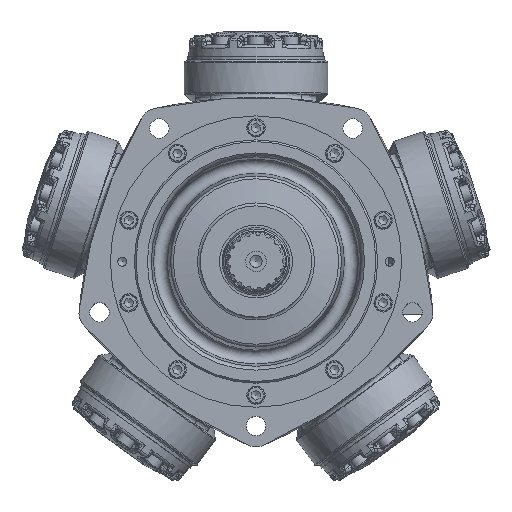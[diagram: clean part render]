
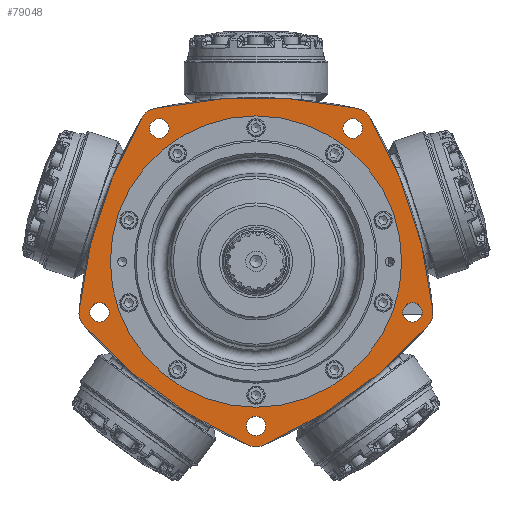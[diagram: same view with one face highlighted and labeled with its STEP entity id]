
A CAD part, top view. The second image highlights one B-rep face of the part: STEP entity #79048.
In plain terms, the highlighted planar face has unit normal (0, 0, 1).
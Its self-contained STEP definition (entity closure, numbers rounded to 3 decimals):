
#2959=FACE_BOUND('',#15388,.T.);
#2960=FACE_BOUND('',#15389,.T.);
#2961=FACE_BOUND('',#15390,.T.);
#2962=FACE_BOUND('',#15391,.T.);
#2963=FACE_BOUND('',#15392,.T.);
#2964=FACE_BOUND('',#15393,.T.);
#8647=PLANE('',#84549);
#10286=FACE_OUTER_BOUND('',#15387,.T.);
#15387=EDGE_LOOP('',(#52309,#52310,#52311,#52312,#52313,#52314,#52315,#52316,
#52317,#52318));
#15388=EDGE_LOOP('',(#52319));
#15389=EDGE_LOOP('',(#52320));
#15390=EDGE_LOOP('',(#52321));
#15391=EDGE_LOOP('',(#52322));
#15392=EDGE_LOOP('',(#52323));
#15393=EDGE_LOOP('',(#52324));
#27792=CIRCLE('',#84482,9.);
#27794=CIRCLE('',#84485,9.);
#27796=CIRCLE('',#84488,9.);
#27798=CIRCLE('',#84491,9.);
#27800=CIRCLE('',#84494,9.);
#27830=CIRCLE('',#84548,134.957);
#27831=CIRCLE('',#84550,19.05);
#27832=CIRCLE('',#84551,444.5);
#27833=CIRCLE('',#84552,19.05);
#27834=CIRCLE('',#84553,444.5);
#27835=CIRCLE('',#84554,19.05);
#27836=CIRCLE('',#84555,444.5);
#27837=CIRCLE('',#84556,19.05);
#27838=CIRCLE('',#84557,444.5);
#27839=CIRCLE('',#84558,19.05);
#27840=CIRCLE('',#84559,444.5);
#31716=VERTEX_POINT('',#121573);
#31718=VERTEX_POINT('',#121579);
#31720=VERTEX_POINT('',#121585);
#31722=VERTEX_POINT('',#121591);
#31724=VERTEX_POINT('',#121597);
#31799=VERTEX_POINT('',#122576);
#31800=VERTEX_POINT('',#122580);
#31801=VERTEX_POINT('',#122581);
#31802=VERTEX_POINT('',#122583);
#31803=VERTEX_POINT('',#122585);
#31804=VERTEX_POINT('',#122587);
#31805=VERTEX_POINT('',#122589);
#31806=VERTEX_POINT('',#122591);
#31807=VERTEX_POINT('',#122593);
#31808=VERTEX_POINT('',#122595);
#31809=VERTEX_POINT('',#122597);
#39172=EDGE_CURVE('',#31716,#31716,#27792,.T.);
#39175=EDGE_CURVE('',#31718,#31718,#27794,.T.);
#39178=EDGE_CURVE('',#31720,#31720,#27796,.T.);
#39181=EDGE_CURVE('',#31722,#31722,#27798,.T.);
#39184=EDGE_CURVE('',#31724,#31724,#27800,.T.);
#39284=EDGE_CURVE('',#31799,#31799,#27830,.T.);
#39285=EDGE_CURVE('',#31800,#31801,#27831,.T.);
#39286=EDGE_CURVE('',#31802,#31800,#27832,.T.);
#39287=EDGE_CURVE('',#31803,#31802,#27833,.T.);
#39288=EDGE_CURVE('',#31804,#31803,#27834,.T.);
#39289=EDGE_CURVE('',#31805,#31804,#27835,.T.);
#39290=EDGE_CURVE('',#31806,#31805,#27836,.T.);
#39291=EDGE_CURVE('',#31807,#31806,#27837,.T.);
#39292=EDGE_CURVE('',#31808,#31807,#27838,.T.);
#39293=EDGE_CURVE('',#31809,#31808,#27839,.T.);
#39294=EDGE_CURVE('',#31801,#31809,#27840,.T.);
#52309=ORIENTED_EDGE('',*,*,#39285,.F.);
#52310=ORIENTED_EDGE('',*,*,#39286,.F.);
#52311=ORIENTED_EDGE('',*,*,#39287,.F.);
#52312=ORIENTED_EDGE('',*,*,#39288,.F.);
#52313=ORIENTED_EDGE('',*,*,#39289,.F.);
#52314=ORIENTED_EDGE('',*,*,#39290,.F.);
#52315=ORIENTED_EDGE('',*,*,#39291,.F.);
#52316=ORIENTED_EDGE('',*,*,#39292,.F.);
#52317=ORIENTED_EDGE('',*,*,#39293,.F.);
#52318=ORIENTED_EDGE('',*,*,#39294,.F.);
#52319=ORIENTED_EDGE('',*,*,#39172,.T.);
#52320=ORIENTED_EDGE('',*,*,#39175,.T.);
#52321=ORIENTED_EDGE('',*,*,#39178,.T.);
#52322=ORIENTED_EDGE('',*,*,#39181,.T.);
#52323=ORIENTED_EDGE('',*,*,#39184,.T.);
#52324=ORIENTED_EDGE('',*,*,#39284,.F.);
#79048=ADVANCED_FACE('',(#10286,#2959,#2960,#2961,#2962,#2963,#2964),#8647,
 .F.);
#84482=AXIS2_PLACEMENT_3D('',#121575,#93068,#93069);
#84485=AXIS2_PLACEMENT_3D('',#121581,#93075,#93076);
#84488=AXIS2_PLACEMENT_3D('',#121587,#93082,#93083);
#84491=AXIS2_PLACEMENT_3D('',#121593,#93089,#93090);
#84494=AXIS2_PLACEMENT_3D('',#121599,#93096,#93097);
#84548=AXIS2_PLACEMENT_3D('',#122578,#93223,#93224);
#84549=AXIS2_PLACEMENT_3D('',#122579,#93225,#93226);
#84550=AXIS2_PLACEMENT_3D('',#122582,#93227,#93228);
#84551=AXIS2_PLACEMENT_3D('',#122584,#93229,#93230);
#84552=AXIS2_PLACEMENT_3D('',#122586,#93231,#93232);
#84553=AXIS2_PLACEMENT_3D('',#122588,#93233,#93234);
#84554=AXIS2_PLACEMENT_3D('',#122590,#93235,#93236);
#84555=AXIS2_PLACEMENT_3D('',#122592,#93237,#93238);
#84556=AXIS2_PLACEMENT_3D('',#122594,#93239,#93240);
#84557=AXIS2_PLACEMENT_3D('',#122596,#93241,#93242);
#84558=AXIS2_PLACEMENT_3D('',#122598,#93243,#93244);
#84559=AXIS2_PLACEMENT_3D('',#122599,#93245,#93246);
#93068=DIRECTION('center_axis',(0.,0.,-1.));
#93069=DIRECTION('ref_axis',(-1.,0.,0.));
#93075=DIRECTION('center_axis',(0.,0.,-1.));
#93076=DIRECTION('ref_axis',(-1.,0.,0.));
#93082=DIRECTION('center_axis',(0.,0.,-1.));
#93083=DIRECTION('ref_axis',(-1.,0.,0.));
#93089=DIRECTION('center_axis',(0.,0.,-1.));
#93090=DIRECTION('ref_axis',(-1.,0.,0.));
#93096=DIRECTION('center_axis',(0.,0.,-1.));
#93097=DIRECTION('ref_axis',(-1.,0.,0.));
#93223=DIRECTION('center_axis',(0.,0.,1.));
#93224=DIRECTION('ref_axis',(-1.,0.,0.));
#93225=DIRECTION('center_axis',(0.,0.,-1.));
#93226=DIRECTION('ref_axis',(-1.,0.,0.));
#93227=DIRECTION('center_axis',(0.,0.,-1.));
#93228=DIRECTION('ref_axis',(-0.995,-0.102,0.));
#93229=DIRECTION('center_axis',(0.,0.,-1.));
#93230=DIRECTION('ref_axis',(-0.865,-0.502,0.));
#93231=DIRECTION('center_axis',(0.,0.,-1.));
#93232=DIRECTION('ref_axis',(-0.211,-0.978,0.));
#93233=DIRECTION('center_axis',(0.,0.,-1.));
#93234=DIRECTION('ref_axis',(0.211,-0.978,0.));
#93235=DIRECTION('center_axis',(0.,0.,-1.));
#93236=DIRECTION('ref_axis',(0.865,-0.502,0.));
#93237=DIRECTION('center_axis',(0.,0.,-1.));
#93238=DIRECTION('ref_axis',(0.995,-0.102,0.));
#93239=DIRECTION('center_axis',(0.,0.,-1.));
#93240=DIRECTION('ref_axis',(0.745,0.667,0.));
#93241=DIRECTION('center_axis',(0.,0.,-1.));
#93242=DIRECTION('ref_axis',(0.404,0.915,0.));
#93243=DIRECTION('center_axis',(0.,0.,-1.));
#93244=DIRECTION('ref_axis',(-0.404,0.915,0.));
#93245=DIRECTION('center_axis',(0.,0.,-1.));
#93246=DIRECTION('ref_axis',(-0.745,0.667,0.));
#121573=CARTESIAN_POINT('',(-80.578,123.294,81.534));
#121575=CARTESIAN_POINT('Origin',(-89.578,123.294,81.534));
#121579=CARTESIAN_POINT('',(98.578,123.294,81.534));
#121581=CARTESIAN_POINT('Origin',(89.578,123.294,81.534));
#121585=CARTESIAN_POINT('',(-135.941,-47.094,81.534));
#121587=CARTESIAN_POINT('Origin',(-144.941,-47.094,81.534));
#121591=CARTESIAN_POINT('',(153.941,-47.094,81.534));
#121593=CARTESIAN_POINT('Origin',(144.941,-47.094,81.534));
#121597=CARTESIAN_POINT('',(9.,-152.4,81.534));
#121599=CARTESIAN_POINT('Origin',(0.,-152.4,81.534));
#122576=CARTESIAN_POINT('',(0.,-134.957,81.534));
#122578=CARTESIAN_POINT('Origin',(0.,0.,81.534));
#122579=CARTESIAN_POINT('Origin',(0.,233.59,81.534));
#122580=CARTESIAN_POINT('',(163.892,-45.154,81.534));
#122581=CARTESIAN_POINT('',(159.132,-59.803,81.534));
#122582=CARTESIAN_POINT('Origin',(144.941,-47.094,81.534));
#122583=CARTESIAN_POINT('',(106.05,132.864,81.534));
#122584=CARTESIAN_POINT('Origin',(-278.297,-90.424,81.534));
#122585=CARTESIAN_POINT('',(93.589,141.917,81.534));
#122586=CARTESIAN_POINT('Origin',(89.578,123.294,81.534));
#122587=CARTESIAN_POINT('',(-93.589,141.917,81.534));
#122588=CARTESIAN_POINT('Origin',(0.,-292.619,
81.534));
#122589=CARTESIAN_POINT('',(-106.05,132.864,81.534));
#122590=CARTESIAN_POINT('Origin',(-89.578,123.294,81.534));
#122591=CARTESIAN_POINT('',(-163.892,-45.154,81.534));
#122592=CARTESIAN_POINT('Origin',(278.297,-90.424,81.534));
#122593=CARTESIAN_POINT('',(-159.132,-59.803,81.534));
#122594=CARTESIAN_POINT('Origin',(-144.941,-47.094,81.534));
#122595=CARTESIAN_POINT('',(-7.701,-169.824,81.534));
#122596=CARTESIAN_POINT('Origin',(171.997,236.733,81.534));
#122597=CARTESIAN_POINT('',(7.701,-169.824,81.534));
#122598=CARTESIAN_POINT('Origin',(0.,-152.4,81.534));
#122599=CARTESIAN_POINT('Origin',(-171.997,236.733,81.534));
